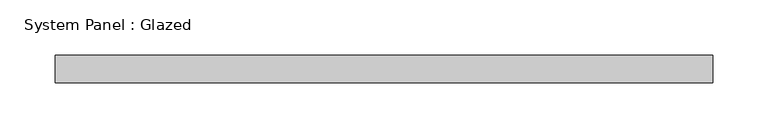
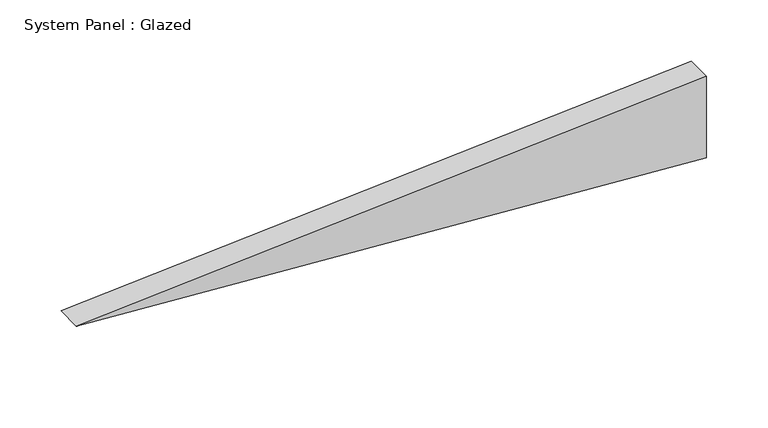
"""IFC4 building model written with IfcOpenShell, lengths in millimetres: plate geometry, System Panel : Glazed."""

import ifcopenshell
import ifcopenshell.guid

model = None  # the IFC model being written
_history = None  # IfcOwnerHistory: only IFC2X3 demands one
_inside = {}  # id of a spatial element -> (the spatial element, [elements in it])
_under = {}  # id of a project, library or spatial element -> (it, [spatial elements below it])
_declared = {}  # id of a project -> (the project, [libraries it declares])
_typed = {}  # id of a type object -> (the type object, [elements of that type])
_made_of = {}  # id of a material, layer set ... -> (it, [elements and type objects made of it])


def new_model(schema):
    """Start an empty IFC model of exactly this schema.

    Asked for "IFC4X3", IfcOpenShell would pick the latest addendum, in which some entities
    have other attributes; the version numbers below select the first issue.
    IFC2X3 requires an IfcOwnerHistory on every rooted entity: one is made here for all.
    """
    global model, _history
    if schema == "IFC4X3":
        model = ifcopenshell.file(schema_version=(4, 3, 0, 0))
    else:
        model = ifcopenshell.file(schema=schema)
    _inside.clear()
    _under.clear()
    _declared.clear()
    _typed.clear()
    _made_of.clear()
    _history = None
    if model.schema == "IFC2X3":
        org = make("IfcOrganization", Name="unknown")
        user = make(
            "IfcPersonAndOrganization",
            ThePerson=make("IfcPerson", FamilyName="unknown"),
            TheOrganization=org,
        )
        app = make(
            "IfcApplication",
            ApplicationDeveloper=org,
            Version="unknown",
            ApplicationFullName="unknown",
            ApplicationIdentifier="unknown",
        )
        _history = make(
            "IfcOwnerHistory",
            OwningUser=user,
            OwningApplication=app,
            ChangeAction="ADDED",
            CreationDate=0,
        )
    return model


def make(cls, **values):
    """One entity of the class cls with the attributes given. An attribute that is None is left unset."""
    return model.create_entity(
        cls, **{name: value for name, value in values.items() if value is not None}
    )


def rooted(cls, **values):
    """An entity with a GlobalId (a new one), such as an element, a storey or a relation."""
    return make(cls, GlobalId=ifcopenshell.guid.new(), OwnerHistory=_history, **values)


def si_unit(unit_type, name, prefix=None):
    """IfcSIUnit, for example si_unit("LENGTHUNIT", "METRE", prefix="MILLI")."""
    return make("IfcSIUnit", UnitType=unit_type, Prefix=prefix, Name=name)


def assignment(units):
    """IfcUnitAssignment: the units of a project."""
    return None if units is None else make("IfcUnitAssignment", Units=units)


def point(xyz):
    """IfcCartesianPoint."""
    return None if xyz is None else make("IfcCartesianPoint", Coordinates=xyz)


def direction(xyz):
    """IfcDirection."""
    return None if xyz is None else make("IfcDirection", DirectionRatios=xyz)


def frame(location, z_axis=None, x_axis=None):
    """IfcAxis2Placement3D, a coordinate frame: its origin and axes. An axis left out is left unset."""
    return make(
        "IfcAxis2Placement3D",
        Location=point(location),
        Axis=direction(z_axis),
        RefDirection=direction(x_axis),
    )


def origin():
    """The frame at (0, 0, 0) with its axes left unset."""
    return frame((0.0, 0.0, 0.0))


def place(relative_to, where):
    """IfcLocalPlacement: puts the frame where relative to a parent placement (None: the world)."""
    return make(
        "IfcLocalPlacement", PlacementRelTo=relative_to, RelativePlacement=where
    )


def context(
    kind, dimensions, precision=None, world=None, true_north=None, identifier=None
):
    """IfcGeometricRepresentationContext, for example the 3D "Model" context."""
    return make(
        "IfcGeometricRepresentationContext",
        ContextIdentifier=identifier,
        ContextType=kind,
        CoordinateSpaceDimension=dimensions,
        Precision=precision,
        WorldCoordinateSystem=world,
        TrueNorth=true_north,
    )


def project(units=None, contexts=None):
    """IfcProject with its units and contexts."""
    return rooted(
        "IfcProject",
        Name="project",
        RepresentationContexts=contexts,
        UnitsInContext=assignment(units),
    )


def spatial(cls, under=None, at=None, **own):
    """A site, building, storey or space (cls), placed at a placement, below another one or the project."""
    s = rooted(cls, ObjectPlacement=at, **own)
    if under is not None:
        _under.setdefault(under.id(), (under, []))[1].append(s)
    return s


def faces_of(points, faces, orient=None, outer=None):
    """IfcFace entities. A face is a list of loops; a loop is a list of indices into points, from 0.

    orient and outer hold one flag for each loop. By default every Orientation is true, the
    first loop of a face is its IfcFaceOuterBound and the others are IfcFaceBound.
    """
    made = []
    for i, loops in enumerate(faces):
        bounds = []
        for j, loop in enumerate(loops):
            is_outer = j == 0 if outer is None else outer[i][j]
            bounds.append(
                make(
                    "IfcFaceOuterBound" if is_outer else "IfcFaceBound",
                    Bound=make("IfcPolyLoop", Polygon=[points[k] for k in loop]),
                    Orientation=True if orient is None else orient[i][j],
                )
            )
        made.append(make("IfcFace", Bounds=bounds))
    return made


def faceted_brep(points, faces, orient=None, outer=None, voids=None):
    """IfcFacetedBrep: a solid bounded by flat faces; with voids (closed shells), ...WithVoids."""
    shared = [point(p) for p in points]
    hull = make("IfcClosedShell", CfsFaces=faces_of(shared, faces, orient, outer))
    if voids is None:
        return make("IfcFacetedBrep", Outer=hull)
    return make(
        "IfcFacetedBrepWithVoids",
        Outer=hull,
        Voids=[
            make(cls, CfsFaces=faces_of(shared, fs, o, b)) for cls, fs, o, b in voids
        ],
    )


def shape(context_of_items, identifier, shape_type, items):
    """IfcShapeRepresentation: the items that make up one representation, for example the "Body"."""
    return make(
        "IfcShapeRepresentation",
        ContextOfItems=context_of_items,
        RepresentationIdentifier=identifier,
        RepresentationType=shape_type,
        Items=items,
    )


def source(mapping_origin, context_of_items, identifier, shape_type, items):
    """IfcRepresentationMap: a shape defined once, which mapped items show again and again."""
    return make(
        "IfcRepresentationMap",
        MappingOrigin=mapping_origin,
        MappedRepresentation=shape(context_of_items, identifier, shape_type, items),
    )


def transform(
    local_origin,
    x_axis=None,
    y_axis=None,
    z_axis=None,
    scale=None,
    scale2=None,
    scale3=None,
    uniform=True,
):
    """IfcCartesianTransformationOperator3D, or its non-uniform kind. x_axis, y_axis, z_axis: its Axis1, 2, 3."""
    if uniform:
        return make(
            "IfcCartesianTransformationOperator3D",
            Axis1=direction(x_axis),
            Axis2=direction(y_axis),
            LocalOrigin=point(local_origin),
            Scale=scale,
            Axis3=direction(z_axis),
        )
    return make(
        "IfcCartesianTransformationOperator3DnonUniform",
        Axis1=direction(x_axis),
        Axis2=direction(y_axis),
        LocalOrigin=point(local_origin),
        Scale=scale,
        Axis3=direction(z_axis),
        Scale2=scale2,
        Scale3=scale3,
    )


def mapped(mapping_source, mapping_target):
    """IfcMappedItem: shows the shape of a source again, moved by a transform."""
    return make(
        "IfcMappedItem", MappingSource=mapping_source, MappingTarget=mapping_target
    )


def made_of(thing, what):
    """Note that an element or type object is made of a material, layer set ...; save() writes the relation."""
    if what is not None:
        _made_of.setdefault(what.id(), (what, []))[1].append(thing)
    return thing


def element(
    cls,
    number,
    at=None,
    inside=None,
    cuts=None,
    type_object=None,
    material=None,
    context=None,
    identifier="Body",
    shape_type=None,
    held_by="IfcProductDefinitionShape",
    body=None,
    shapes=None,
    **own,
):
    """One element of the class cls, such as IfcWall. Its Tag is "e" and its number.

    at: its placement. inside: the storey or other place that contains it. cuts: it is an
    opening in that element (IfcRelVoidsElement). A single representation is given by context,
    identifier, shape_type and body (its items); several are given by shapes. held_by: the class
    of the entity that holds the representations. save() writes the other relations.
    """
    e = rooted(cls, Tag="e%d" % number, ObjectPlacement=at, **own)
    if body is not None:
        shapes = [shape(context, identifier, shape_type, body)]
    if shapes is not None:
        e.Representation = make(held_by, Representations=shapes)
    if inside is not None:
        _inside.setdefault(inside.id(), (inside, []))[1].append(e)
    if cuts is not None:
        rooted(
            "IfcRelVoidsElement", RelatingBuildingElement=cuts, RelatedOpeningElement=e
        )
    if type_object is not None:
        _typed.setdefault(type_object.id(), (type_object, []))[1].append(e)
    return made_of(e, material)


def aggregate(whole, parts):
    """IfcRelAggregates: a whole, such as a stair, and the parts it consists of."""
    return rooted("IfcRelAggregates", RelatingObject=whole, RelatedObjects=parts)


def save(model, path):
    """Write the relations noted so far, then the file.

    IfcRelAggregates (storeys below a building ...), IfcRelContainedInSpatialStructure (elements
    in a storey), IfcRelDefinesByType, IfcRelAssociatesMaterial and IfcRelDeclares: one each for
    every whole, place, type object, material and project.
    """
    for whole, parts in _under.values():
        aggregate(whole, parts)
    for where, things in _inside.values():
        rooted(
            "IfcRelContainedInSpatialStructure",
            RelatedElements=things,
            RelatingStructure=where,
        )
    for kind, things in _typed.values():
        rooted("IfcRelDefinesByType", RelatedObjects=things, RelatingType=kind)
    for what, things in _made_of.values():
        rooted("IfcRelAssociatesMaterial", RelatedObjects=things, RelatingMaterial=what)
    for by, libraries in _declared.values():
        rooted("IfcRelDeclares", RelatingContext=by, RelatedDefinitions=libraries)
    model.write(path)


def system_panel_glazed_eb2872cb(model_context):
    return source(origin(), model_context, "Body", "Brep", [
        faceted_brep([(-298.0410154, 24.5, 40.64071), (298.0410154, 24.5, 0.0), (298.0410154, 24.5, 81.6277837), (-298.0410154, 49.5, 40.9870737), (298.0410154, 49.5, 81.6277837), (298.0410154, 49.5, 0.0)], [[[0, 1, 2]], [[3, 4, 5]], [[1, 0, 3, 5]], [[2, 1, 5, 4]], [[0, 2, 4, 3]]]),
    ])


if __name__ == "__main__":
    model = new_model("IFC4")
    model_context = context("Model", 3, world=origin())
    ifc_project = project(units=[si_unit("LENGTHUNIT", "METRE", prefix="MILLI")], contexts=[model_context])
    site = spatial("IfcSite", under=ifc_project)
    building = spatial("IfcBuilding", under=site)
    placement = place(None, origin())
    system_panel_glazed_shape = system_panel_glazed_eb2872cb(model_context)
    element("IfcPlate", 1, ObjectType="System Panel : Glazed", at=placement, inside=building, context=model_context, shape_type="MappedRepresentation", body=[
        mapped(system_panel_glazed_shape, transform((0.0, 0.0, 0.0), x_axis=(1.0, 0.0, 0.0), y_axis=(0.0, 1.0, 0.0), z_axis=(0.0, 0.0, 1.0))),
    ])
    save(model, "model.ifc")
